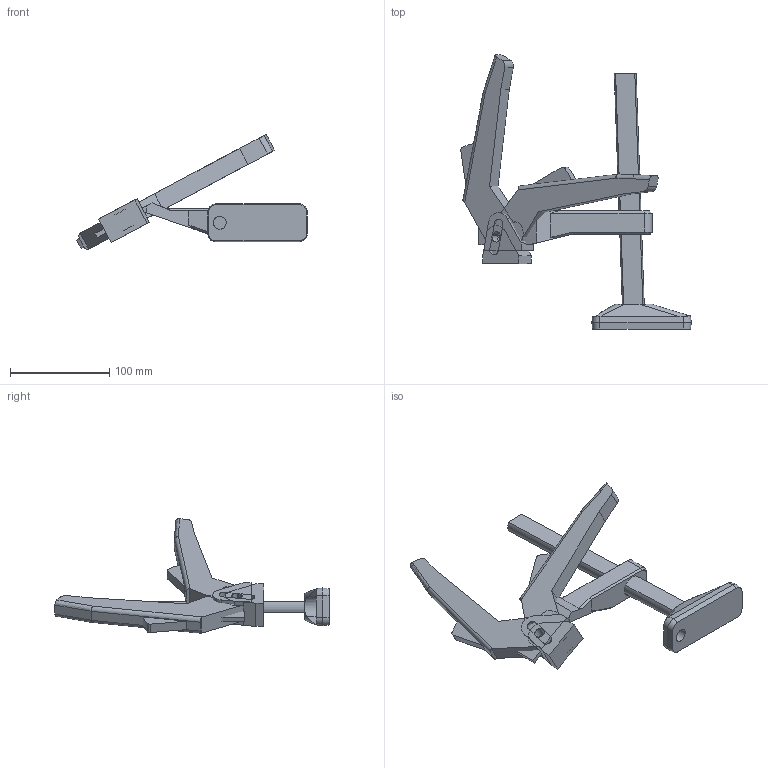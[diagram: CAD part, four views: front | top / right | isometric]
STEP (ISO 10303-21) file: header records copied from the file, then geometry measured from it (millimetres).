
FILE_DESCRIPTION( ( 'STEP AP214' ), '1' );
FILE_NAME( 'X:/CAD_Daten_Platzhalter/BS3N/BS3N001.stp', ' ', ( ' ' ), ( ' ' ), 'PSStep 11.0', ' ', ' ' );
FILE_SCHEMA( ( 'AUTOMOTIVE_DESIGN { 1 0 10303 214 1 1 1 1 }' ) );
Length unit declared in the file: metre
Products named in the file (6): 1; 2; 3; 4; 5; 6
Bounding box: 231.89 x 275.64 x 115.22 mm (x, y, z)
Volume: 435889 mm3; surface area: 98130.5 mm2
Topology: 6 solids, 6 shells, 156 faces, 391 edges, 249 vertices
Faces by surface type: bspline 156
Entity records: 8700 total; most frequent: CARTESIAN_POINT 4992, ORIENTED_EDGE 782, EDGE_CURVE 391, B_SPLINE_CURVE_WITH_KNOTS 331, VERTEX_POINT 249, EDGE_LOOP 172, STYLED_ITEM 156, PRESENTATION_STYLE_ASSIGNMENT 156
